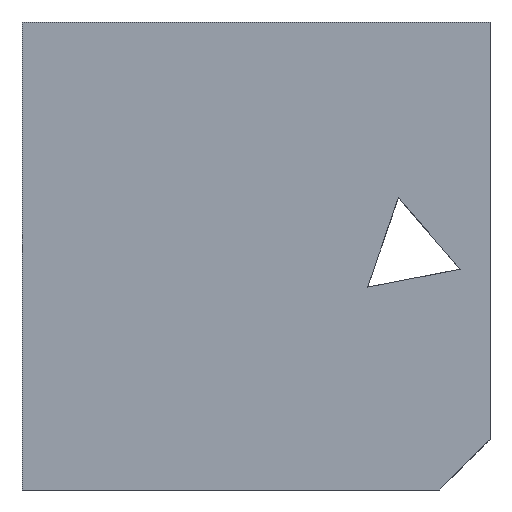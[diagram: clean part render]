
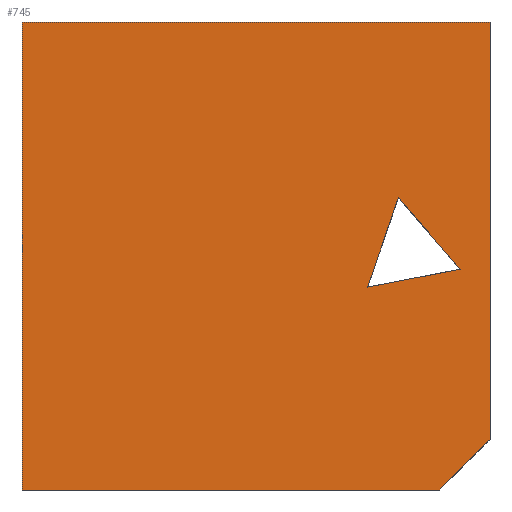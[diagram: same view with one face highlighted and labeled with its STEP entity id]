
A CAD part, left-side view. The second image highlights one B-rep face of the part: STEP entity #745.
In plain terms, the highlighted planar face has unit normal (-1, 0, 0).
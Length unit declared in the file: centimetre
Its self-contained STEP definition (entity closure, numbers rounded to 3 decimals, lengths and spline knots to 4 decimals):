
#20 = LINE ( 'NONE', #315, #1158 ) ;
#25 = VERTEX_POINT ( 'NONE', #128 ) ;
#65 = DIRECTION ( 'NONE',  ( 0., -0.655, -0.755 ) ) ;
#83 = CARTESIAN_POINT ( 'NONE',  ( 0., 261.7145, 433.4215 ) ) ;
#85 = LINE ( 'NONE', #1029, #241 ) ;
#115 = EDGE_CURVE ( 'NONE', #237, #659, #20, .T. ) ;
#128 = CARTESIAN_POINT ( 'NONE',  ( 0., 195.7668, 624.393 ) ) ;
#163 = LINE ( 'NONE', #83, #1104 ) ;
#197 = CARTESIAN_POINT ( 'NONE',  ( 0., 195.7668, 624.393 ) ) ;
#200 = DIRECTION ( 'NONE',  ( 0., -1., 0. ) ) ;
#204 = CARTESIAN_POINT ( 'NONE',  ( 0., 63.3545, 471.7949 ) ) ;
#237 = VERTEX_POINT ( 'NONE', #1000 ) ;
#241 = VECTOR ( 'NONE', #200, 100. ) ;
#267 = VERTEX_POINT ( 'NONE', #372 ) ;
#278 = CARTESIAN_POINT ( 'NONE',  ( 0., 0., 108.2714 ) ) ;
#281 = VERTEX_POINT ( 'NONE', #204 ) ;
#287 = LINE ( 'NONE', #278, #1011 ) ;
#288 = EDGE_CURVE ( 'NONE', #267, #25, #565, .T. ) ;
#294 = CARTESIAN_POINT ( 'NONE',  ( 0., 1000., 1000. ) ) ;
#302 = VERTEX_POINT ( 'NONE', #927 ) ;
#306 = CARTESIAN_POINT ( 'NONE',  ( 0., 108.2714, 0. ) ) ;
#315 = CARTESIAN_POINT ( 'NONE',  ( 0., 0., 1000. ) ) ;
#323 = ORIENTED_EDGE ( 'NONE', *, *, #829, .T. ) ;
#345 = ORIENTED_EDGE ( 'NONE', *, *, #1182, .T. ) ;
#350 = DIRECTION ( 'NONE',  ( 0., 0., -1. ) ) ;
#358 = ORIENTED_EDGE ( 'NONE', *, *, #1171, .T. ) ;
#372 = CARTESIAN_POINT ( 'NONE',  ( 0., 261.7145, 433.4215 ) ) ;
#373 = DIRECTION ( 'NONE',  ( 1., 0., 0. ) ) ;
#374 = ORIENTED_EDGE ( 'NONE', *, *, #596, .T. ) ;
#405 = VECTOR ( 'NONE', #572, 100. ) ;
#424 = VECTOR ( 'NONE', #350, 100. ) ;
#450 = LINE ( 'NONE', #799, #424 ) ;
#457 = CARTESIAN_POINT ( 'NONE',  ( 0., 63.3545, 471.7949 ) ) ;
#459 = FACE_OUTER_BOUND ( 'NONE', #1121, .T. ) ;
#465 = DIRECTION ( 'NONE',  ( 0., 0.982, -0.19 ) ) ;
#501 = VERTEX_POINT ( 'NONE', #306 ) ;
#565 = LINE ( 'NONE', #197, #405 ) ;
#572 = DIRECTION ( 'NONE',  ( 0., -0.326, 0.945 ) ) ;
#596 = EDGE_CURVE ( 'NONE', #1007, #501, #85, .T. ) ;
#646 = LINE ( 'NONE', #294, #798 ) ;
#647 = EDGE_LOOP ( 'NONE', ( #345, #997, #1014 ) ) ;
#659 = VERTEX_POINT ( 'NONE', #688 ) ;
#688 = CARTESIAN_POINT ( 'NONE',  ( 0., 0., 108.2714 ) ) ;
#745 = ADVANCED_FACE ( 'NONE', ( #1213, #459 ), #1087, .F. ) ;
#766 = EDGE_CURVE ( 'NONE', #302, #237, #646, .T. ) ;
#784 = EDGE_CURVE ( 'NONE', #281, #267, #163, .T. ) ;
#785 = VECTOR ( 'NONE', #65, 100. ) ;
#798 = VECTOR ( 'NONE', #828, 100. ) ;
#799 = CARTESIAN_POINT ( 'NONE',  ( 0., 1000., 1000. ) ) ;
#821 = DIRECTION ( 'NONE',  ( 0., -0.707, 0.707 ) ) ;
#828 = DIRECTION ( 'NONE',  ( 0., -1., 0. ) ) ;
#829 = EDGE_CURVE ( 'NONE', #501, #659, #287, .T. ) ;
#875 = ORIENTED_EDGE ( 'NONE', *, *, #766, .F. ) ;
#927 = CARTESIAN_POINT ( 'NONE',  ( 0., 1000., 1000. ) ) ;
#958 = ORIENTED_EDGE ( 'NONE', *, *, #115, .F. ) ;
#997 = ORIENTED_EDGE ( 'NONE', *, *, #784, .T. ) ;
#1000 = CARTESIAN_POINT ( 'NONE',  ( 0., 0., 1000. ) ) ;
#1001 = CARTESIAN_POINT ( 'NONE',  ( 0., 1000., 1000. ) ) ;
#1007 = VERTEX_POINT ( 'NONE', #1135 ) ;
#1011 = VECTOR ( 'NONE', #821, 100. ) ;
#1014 = ORIENTED_EDGE ( 'NONE', *, *, #288, .T. ) ;
#1029 = CARTESIAN_POINT ( 'NONE',  ( 0., 1000., 0. ) ) ;
#1083 = AXIS2_PLACEMENT_3D ( 'NONE', #1001, #373, #1113 ) ;
#1084 = LINE ( 'NONE', #457, #785 ) ;
#1087 = PLANE ( 'NONE',  #1083 ) ;
#1104 = VECTOR ( 'NONE', #465, 100. ) ;
#1113 = DIRECTION ( 'NONE',  ( 0., 0., -1. ) ) ;
#1121 = EDGE_LOOP ( 'NONE', ( #374, #323, #958, #875, #358 ) ) ;
#1135 = CARTESIAN_POINT ( 'NONE',  ( 0., 1000., 0. ) ) ;
#1144 = DIRECTION ( 'NONE',  ( 0., 0., -1. ) ) ;
#1158 = VECTOR ( 'NONE', #1144, 100. ) ;
#1171 = EDGE_CURVE ( 'NONE', #302, #1007, #450, .T. ) ;
#1182 = EDGE_CURVE ( 'NONE', #25, #281, #1084, .T. ) ;
#1213 = FACE_BOUND ( 'NONE', #647, .T. ) ;
